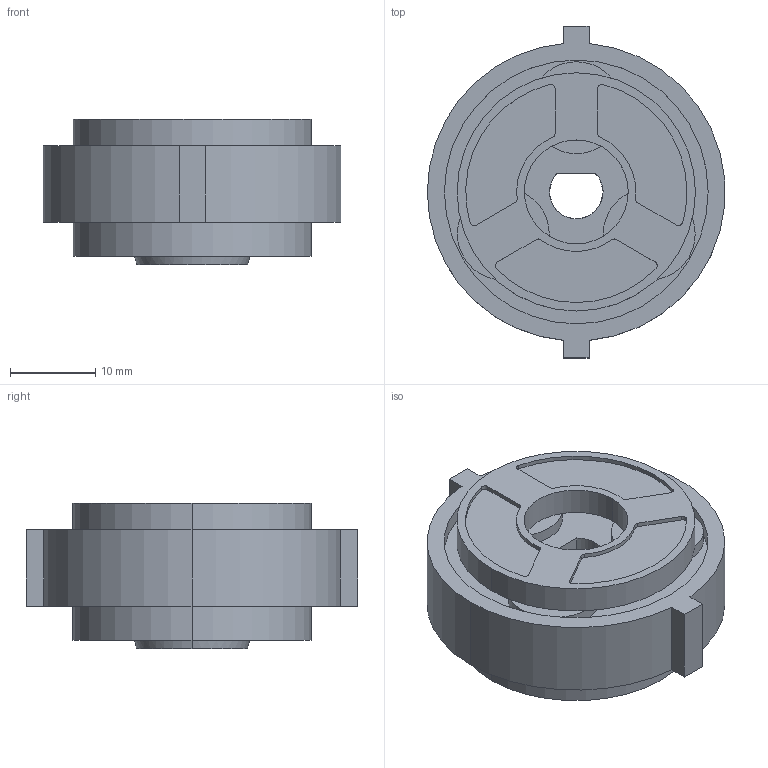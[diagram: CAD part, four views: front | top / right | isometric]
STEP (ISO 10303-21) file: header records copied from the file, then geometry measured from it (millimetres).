
FILE_DESCRIPTION (( 'STEP AP203' ), '1' );
FILE_NAME ('LGU35-4SNS.step', '2021-07-23T02:22:45', ( '' ), ( '' ), 'SwSTEP 2.0', 'SolidWorks 2021', '' );
FILE_SCHEMA (( 'CONFIG_CONTROL_DESIGN' ));
Length unit declared in the file: millimetre
Products named in the file (1): LGU35-4SNS
Bounding box: 34.93 x 39 x 17.1 mm (x, y, z)
Volume: 10469.6 mm3; surface area: 6876.7 mm2
Topology: 1 solids, 1 shells, 262 faces, 732 edges, 488 vertices
Faces by surface type: cylinder 190, plane 64, bspline 6, cone 2
Entity records: 8841 total; most frequent: CARTESIAN_POINT 1681, DIRECTION 1612, ORIENTED_EDGE 1464, EDGE_CURVE 732, AXIS2_PLACEMENT_3D 647, VERTEX_POINT 488, CIRCLE 390, LINE 318
